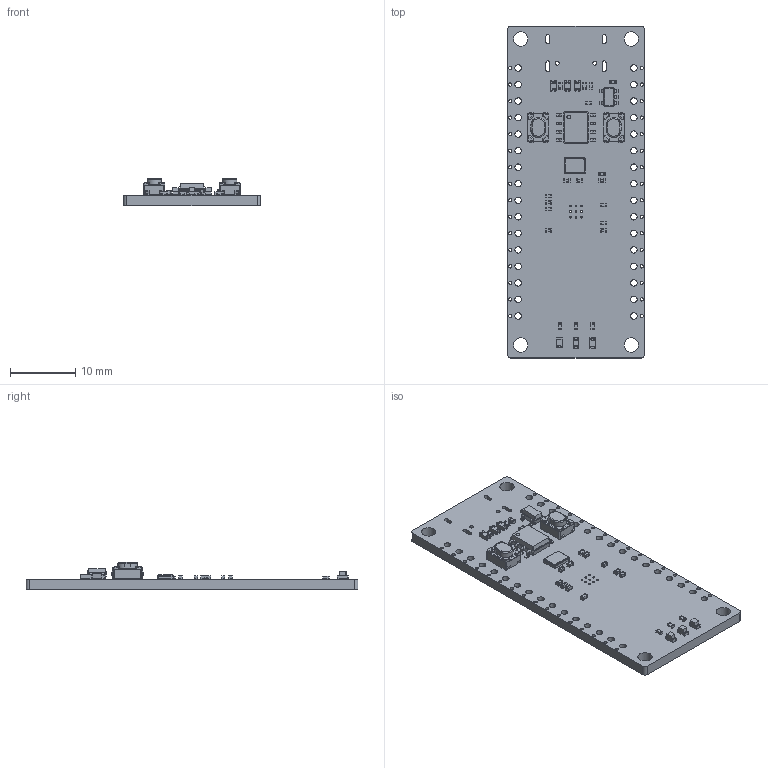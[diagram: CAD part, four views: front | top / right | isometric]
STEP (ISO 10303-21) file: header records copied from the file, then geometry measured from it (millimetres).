
FILE_DESCRIPTION(('KiCad electronic assembly'),'2;1');
FILE_NAME('Air101-Board.step','2022-03-15T10:46:13',('Pcbnew'),('Kicad') ,'Open CASCADE STEP processor 7.5','KiCad to STEP converter','Unknown' );
FILE_SCHEMA(('AUTOMOTIVE_DESIGN { 1 0 10303 214 1 1 1 1 }'));
Length unit declared in the file: millimetre
Products named in the file (18): Air101-Board 1; C_0402_1005Metric; SOLID; Crystal_SMD_3225-4Pin_3.2x2.5mm; R_0402_1005Metric; PTS815SJK250; COMPOUND; SOT-23-5; SOIC-8_3.9x4.9mm_P1.27mm; LED_0603_1608Metric; D_0603_1608Metric; Air101-Board PCB
Assembly tree (39 placements, depth 3):
  Air101-Board 1
    C_0402_1005Metric  x12
      SOLID
    Crystal_SMD_3225-4Pin_3.2x2.5mm
      SOLID
    R_0402_1005Metric  x7
      SOLID
    PTS815SJK250  x2
      COMPOUND
    SOT-23-5
      SOLID
    SOIC-8_3.9x4.9mm_P1.27mm
      SOLID
    LED_0603_1608Metric  x3
      SOLID
    D_0603_1608Metric  x3
      SOLID
    Air101-Board PCB
Bounding box: 21 x 51 x 4.15 mm (x, y, z)
Volume: 1737.7 mm3; surface area: 3044.1 mm2
Topology: 39 solids, 39 shells, 1603 faces, 4210 edges, 2780 vertices
Faces by surface type: bspline 1498, cylinder 91, plane 14
Full cylindrical faces by diameter (mm): 0.3 x9, 0.5 x32, 0.6 x2, 1 x32, 2.2 x4
Entity records: 51193 total; most frequent: CARTESIAN_POINT 18850, B_SPLINE_CURVE_WITH_KNOTS 4298, ORIENTED_EDGE 3938, PCURVE 3938, DEFINITIONAL_REPRESENTATION 3938, EDGE_CURVE 1969, SURFACE_CURVE 1880, VERTEX_POINT 1266
